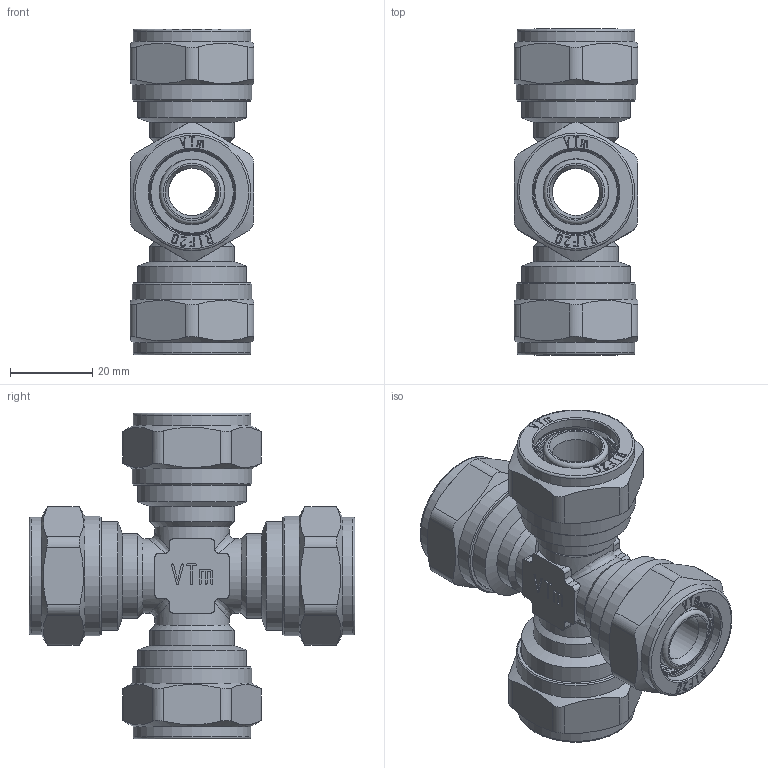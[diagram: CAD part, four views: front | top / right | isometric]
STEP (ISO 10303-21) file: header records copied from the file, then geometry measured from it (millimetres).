
FILE_DESCRIPTION(('STEP AP203'), '1');
FILE_NAME('VTm.341.N.202020', '', ('UNSPECIFIED'), ('UNSPECIFIED'), 'C3D Converter', 'C3D Toolkit', '');
FILE_SCHEMA(('CONFIG_CONTROL_DESIGN'));
Length unit declared in the file: millimetre
Products named in the file (1): ВР.302635.088.000 СБ
Bounding box: 30 x 79.06 x 79.06 mm (x, y, z)
Volume: 49485.5 mm3; surface area: 35378.5 mm2
Topology: 1 solids, 1 shells, 1310 faces, 3600 edges, 2376 vertices
Faces by surface type: extrusion 546, plane 456, cylinder 148, torus 108, cone 48, bspline 4
Full cylindrical faces by diameter (mm): 11.5 x4, 15.8 x16, 15.9 x4, 18 x4, 20.1 x4, 20.2 x4, 20.5 x4, 20.7 x4, 24.118 x4, 26.441 x4, 28.5 x4, 29 x4
Entity records: 47578 total; most frequent: CARTESIAN_POINT 17427, ORIENTED_EDGE 6896, DIRECTION 4462, EDGE_CURVE 3448, VERTEX_POINT 2376, VECTOR 2100, B_SPLINE_CURVE_WITH_KNOTS 1934, EDGE_LOOP 1560
